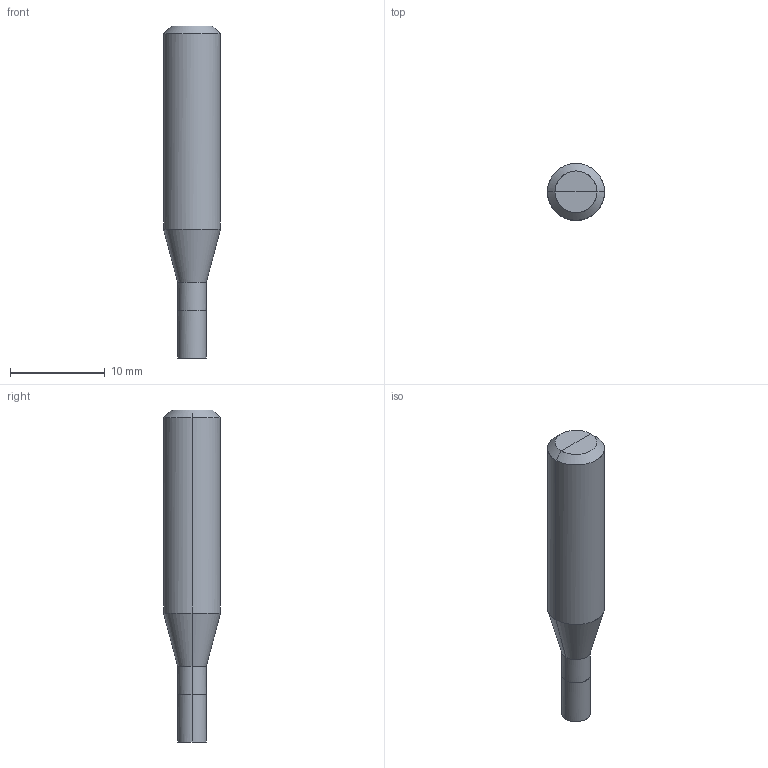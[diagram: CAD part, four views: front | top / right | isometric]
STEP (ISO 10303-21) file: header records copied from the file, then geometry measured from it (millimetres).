
FILE_DESCRIPTION(/* description */ (''),/* implementation_level */ '2;1');
FILE_NAME(/*name*/ '3152-3.0C',/*time_stamp*/'2021-6-18T10:57:9',/*author*/ ('ISBE GmbH'),/*organization*/ ('ISBE GmbH'),/*preprocessor_version*/ 'STEP IO v1.0',/*originating_system*/ '',/*authorisation*/ '');
FILE_SCHEMA (('AUTOMOTIVE_DESIGN'));
Length unit declared in the file: millimetre
Products named in the file (1): Document
Bounding box: 6 x 5.99 x 35 mm (x, y, z)
Surface area: 601.4 mm2 (no closed solid volume)
Topology: 0 solids, 18 shells, 18 faces, 75 edges, 70 vertices
Faces by surface type: bspline 18
Entity records: 725 total; most frequent: CARTESIAN_POINT 396, VERTEX_POINT 64, EDGE_CURVE 64, ORIENTED_EDGE 64, EDGE_LOOP 18, FACE_OUTER_BOUND 18, ADVANCED_FACE 18, DIRECTION 16
